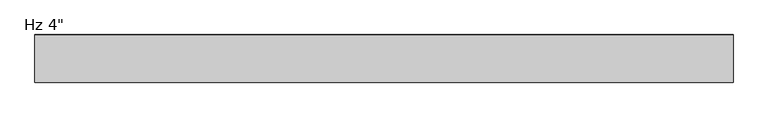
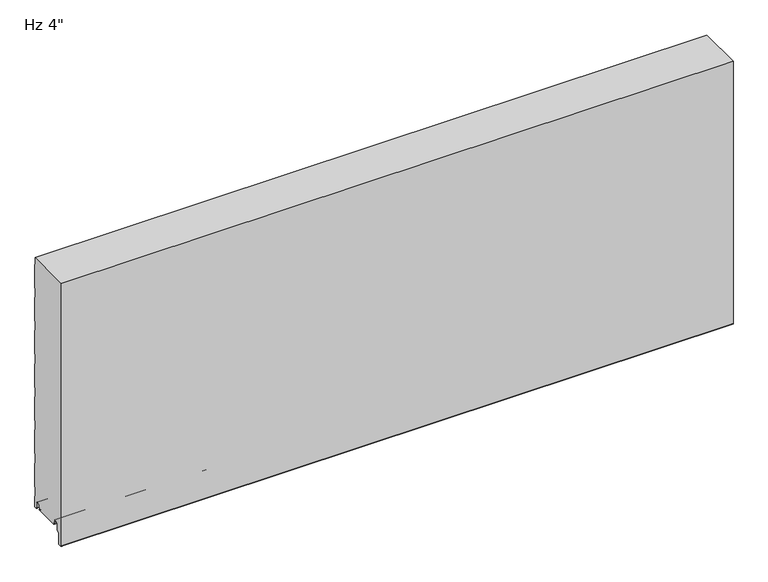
"""IFC4 building model written with IfcOpenShell, lengths in millimetres: plate geometry."""

from ifc_helpers import new_model, si_unit, frame, origin, place, context, project, spatial, polyline, circle_curve, source, transform, mapped, element, save
from ifc_brep_helpers import plane_surface, cylinder_surface, revolved_surface, advanced_brep


def plate_42dbadf1(model_context):
    return source(origin(), model_context, "Body", "AdvancedBrep", [
        advanced_brep(
        [(-730.0, -73.2708959, 1.0316999), (-730.0, -72.1014212, 2.2328239), (-730.0, -72.1014212, 5.9912173), (-730.0, -73.4999001, 5.9912173), (-730.0, -73.4999001, 8.6903283), (-730.0, -76.8498954, 12.0403236), (-730.0, -81.2498866, 12.0403236), (-730.0, -84.5998819, 8.6903283), (-730.0, -84.5998819, -3.1205608), (-730.0, -85.0977988, -4.3226385), (-730.0, -90.5998699, -9.8247096), (-730.0, -90.5998699, -31.9198392), (-730.0, -92.8184719, -34.5765709), (-730.0, -97.8002927, -35.0125699), (-730.0, -100.5946177, -32.4521176), (-730.0, -100.6000209, 571.2), (-730.0, -2.2002516, 571.2), (-730.0, -2.2002516, 555.8186019), (-730.0, -1.0000209, 554.4329689), (-730.0, -1.0000209, 500.3795535), (-730.0, -2.2002516, 498.9939206), (-730.0, -2.2002516, 479.6187543), (-730.0, -1.0000209, 478.2331213), (-730.0, -1.0000209, 424.1797059), (-730.0, -2.2002516, 422.794073), (-730.0, -2.2002516, 403.4189067), (-730.0, -1.0000209, 402.0332737), (-730.0, -1.0000209, 347.9798583), (-730.0, -2.2002516, 346.5942254), (-730.0, -2.2002516, 327.2190591), (-730.0, -1.0000209, 325.8334261), (-730.0, -1.0000209, 271.7800107), (-730.0, -2.2002516, 270.3943778), (-730.0, -2.2002516, 251.0192115), (-730.0, -1.0000209, 249.6335785), (-730.0, -1.0000209, 195.5801631), (-730.0, -2.2002516, 194.1945302), (-730.0, -2.2002516, 174.8193639), (-730.0, -1.0000209, 173.4337309), (-730.0, -1.0000209, 119.3803155), (-730.0, -2.2002516, 117.9946826), (-730.0, -2.2002516, 98.6195163), (-730.0, -1.0000209, 97.2338833), (-730.0, -1.0000209, 43.1804679), (-730.0, -2.2002516, 41.794835), (-730.0, -2.2002516, 22.4196687), (-730.0, -1.0000126, 21.034026), (-730.0, -1.0000126, -3.4662506), (-730.0, -5.2315599, -3.4662506), (-730.0, -7.001554, -1.6962564), (-730.0, -7.001554, 8.7237222), (-730.0, -10.3015499, 12.023718), (-730.0, -14.7015411, 12.023718), (-730.0, -18.0015368, 8.7237223), (-730.0, -18.0015368, 6.0315125), (-730.0, -19.0015314, 6.0315125), (-730.0, -19.0015314, 2.0313089), (-730.0, -18.0015401, 1.0313117), (-730.0, -19.0328517, 0.0), (-730.0, -72.239196, 0.0), (730.0, -73.2708959, 1.0316999), (730.0, -72.239196, 0.0), (730.0, -19.0328517, 0.0), (730.0, -18.0015401, 1.0313117), (730.0, -19.0015314, 2.0313089), (730.0, -19.0015314, 6.0315125), (730.0, -18.0015368, 6.0315125), (730.0, -18.0015368, 8.7237223), (730.0, -14.7015411, 12.023718), (730.0, -10.3015499, 12.023718), (730.0, -7.001554, 8.7237222), (730.0, -7.001554, -1.6962564), (730.0, -5.2315599, -3.4662506), (730.0, -1.0000126, -3.4662506), (730.0, -1.0000126, 21.034026), (730.0, -2.2002516, 22.4196687), (730.0, -2.2002516, 41.794835), (730.0, -1.0000209, 43.1804679), (730.0, -1.0000209, 97.2338833), (730.0, -2.2002516, 98.6195163), (730.0, -2.2002516, 117.9946826), (730.0, -1.0000209, 119.3803155), (730.0, -1.0000209, 173.4337309), (730.0, -2.2002516, 174.8193639), (730.0, -2.2002516, 194.1945302), (730.0, -1.0000209, 195.5801631), (730.0, -1.0000209, 249.6335785), (730.0, -2.2002516, 251.0192115), (730.0, -2.2002516, 270.3943778), (730.0, -1.0000209, 271.7800107), (730.0, -1.0000209, 325.8334261), (730.0, -2.2002516, 327.2190591), (730.0, -2.2002516, 346.5942254), (730.0, -1.0000209, 347.9798583), (730.0, -1.0000209, 402.0332737), (730.0, -2.2002516, 403.4189067), (730.0, -2.2002516, 422.794073), (730.0, -1.0000209, 424.1797059), (730.0, -1.0000209, 478.2331213), (730.0, -2.2002516, 479.6187543), (730.0, -2.2002516, 498.9939206), (730.0, -1.0000209, 500.3795535), (730.0, -1.0000209, 554.4329689), (730.0, -2.2002516, 555.8186019), (730.0, -2.2002516, 571.2), (730.0, -100.6000209, 571.2), (730.0, -100.6000209, -32.4521176), (730.0, -97.8002927, -35.0125699), (730.0, -92.8184719, -34.5765709), (730.0, -90.5998699, -31.9198392), (730.0, -90.5998699, -9.8247096), (730.0, -85.0977988, -4.3226385), (730.0, -84.5998819, -3.1205608), (730.0, -84.5998819, 8.6903283), (730.0, -81.2498866, 12.0403236), (730.0, -76.8498954, 12.0403236), (730.0, -73.4999001, 8.6903283), (730.0, -73.4999001, 5.9912173), (730.0, -72.1014212, 5.9912173), (730.0, -72.1014212, 2.2328239)],
        [
            (0, 1, circle_curve(frame((-730.0, -73.3014178, 2.2313092), z_axis=(1.0, 0.0, 0.0), x_axis=(0.0, 0.0, -1.0)), 1.1999976)),
            (1, 2),
            (2, 3),
            (3, 4),
            (4, 5, circle_curve(frame((-730.0, -76.8498954, 8.6903283), z_axis=(1.0, 0.0, 0.0), x_axis=(0.0, 0.0, -1.0)), 3.3499953)),
            (5, 6),
            (6, 7, circle_curve(frame((-730.0, -81.2498866, 8.6903283), z_axis=(1.0, 0.0, 0.0), x_axis=(0.0, 0.0, -1.0)), 3.3499953)),
            (7, 8),
            (8, 9, circle_curve(frame((-730.0, -86.2998765, -3.1205608), z_axis=(-1.0, 0.0, 0.0), x_axis=(0.0, 0.0, -1.0)), 1.6999946)),
            (9, 10),
            (10, 11),
            (11, 12, circle_curve(frame((-730.0, -93.2998625, -31.9198392), z_axis=(-1.0, 0.0, 0.0), x_axis=(0.0, 0.0, -1.0)), 2.6999926)),
            (12, 13),
            (13, 14, circle_curve(frame((-730.0, -98.0243784, -32.4521176), z_axis=(-1.0, 0.0, 0.0), x_axis=(0.0, 0.0, -1.0)), 2.5702393)),
            (14, 15),
            (15, 16),
            (16, 17),
            (17, 18),
            (18, 19),
            (19, 20),
            (20, 21),
            (21, 22),
            (22, 23),
            (23, 24),
            (24, 25),
            (25, 26),
            (26, 27),
            (27, 28),
            (28, 29),
            (29, 30),
            (30, 31),
            (31, 32),
            (32, 33),
            (33, 34),
            (34, 35),
            (35, 36),
            (36, 37),
            (37, 38),
            (38, 39),
            (39, 40),
            (40, 41),
            (41, 42),
            (42, 43),
            (43, 44),
            (44, 45),
            (45, 46),
            (46, 47),
            (47, 48),
            (48, 49, circle_curve(frame((-730.0, -5.2315599, -1.6962564), z_axis=(-1.0, 0.0, 0.0), x_axis=(0.0, 0.0, 1.0)), 1.7699942)),
            (49, 50),
            (50, 51, circle_curve(frame((-730.0, -10.3015499, 8.7237222), z_axis=(1.0, 0.0, 0.0), x_axis=(0.0, 0.0, 1.0)), 3.2999959)),
            (51, 52),
            (52, 53, circle_curve(frame((-730.0, -14.7015411, 8.7237223), z_axis=(1.0, 0.0, 0.0), x_axis=(0.0, 0.0, 1.0)), 3.2999957)),
            (53, 54),
            (54, 55),
            (55, 56),
            (56, 57, circle_curve(frame((-730.0, -18.0015342, 2.0313089), z_axis=(1.0, 0.0, 0.0), x_axis=(0.0, 0.0, 1.0)), 0.9999972)),
            (57, 58),
            (58, 59),
            (59, 0),
            (60, 61),
            (61, 62),
            (62, 63),
            (63, 64, circle_curve(frame((730.0, -18.0015342, 2.0313089), z_axis=(-1.0, 0.0, 0.0), x_axis=(0.0, 0.0, 1.0)), 0.9999972)),
            (64, 65),
            (65, 66),
            (66, 67),
            (67, 68, circle_curve(frame((730.0, -14.7015411, 8.7237223), z_axis=(-1.0, 0.0, 0.0), x_axis=(0.0, 0.0, 1.0)), 3.2999957)),
            (68, 69),
            (69, 70, circle_curve(frame((730.0, -10.3015499, 8.7237222), z_axis=(-1.0, 0.0, 0.0), x_axis=(0.0, 0.0, 1.0)), 3.2999959)),
            (70, 71),
            (71, 72, circle_curve(frame((730.0, -5.2315599, -1.6962564), z_axis=(1.0, 0.0, 0.0), x_axis=(0.0, 0.0, 1.0)), 1.7699942)),
            (72, 73),
            (73, 74),
            (74, 75),
            (75, 76),
            (76, 77),
            (77, 78),
            (78, 79),
            (79, 80),
            (80, 81),
            (81, 82),
            (82, 83),
            (83, 84),
            (84, 85),
            (85, 86),
            (86, 87),
            (87, 88),
            (88, 89),
            (89, 90),
            (90, 91),
            (91, 92),
            (92, 93),
            (93, 94),
            (94, 95),
            (95, 96),
            (96, 97),
            (97, 98),
            (98, 99),
            (99, 100),
            (100, 101),
            (101, 102),
            (102, 103),
            (103, 104),
            (104, 105),
            (105, 106),
            (106, 107, circle_curve(frame((730.0, -98.0243784, -32.4521176), z_axis=(1.0, 0.0, 0.0), x_axis=(0.0, 0.0, -1.0)), 2.5702393)),
            (107, 108),
            (108, 109, circle_curve(frame((730.0, -93.2998625, -31.9198392), z_axis=(1.0, 0.0, 0.0), x_axis=(0.0, 0.0, -1.0)), 2.6999926)),
            (109, 110),
            (110, 111),
            (111, 112, circle_curve(frame((730.0, -86.2998765, -3.1205608), z_axis=(1.0, 0.0, 0.0), x_axis=(0.0, 0.0, -1.0)), 1.6999946)),
            (112, 113),
            (113, 114, circle_curve(frame((730.0, -81.2498866, 8.6903283), z_axis=(-1.0, 0.0, 0.0), x_axis=(0.0, 0.0, -1.0)), 3.3499953)),
            (114, 115),
            (115, 116, circle_curve(frame((730.0, -76.8498954, 8.6903283), z_axis=(-1.0, 0.0, 0.0), x_axis=(0.0, 0.0, -1.0)), 3.3499953)),
            (116, 117),
            (117, 118),
            (118, 119),
            (119, 60, circle_curve(frame((730.0, -73.3014178, 2.2313092), z_axis=(-1.0, 0.0, 0.0), x_axis=(0.0, 0.0, -1.0)), 1.1999976)),
            (59, 61),
            (60, 0),
            (58, 62),
            (105, 15),
            (14, 106),
            (13, 107),
            (12, 108),
            (11, 109),
            (10, 110),
            (9, 111),
            (8, 112),
            (7, 113),
            (6, 114),
            (5, 115),
            (4, 116),
            (3, 117),
            (2, 118),
            (1, 119),
            (104, 16),
            (57, 63),
            (56, 64),
            (55, 65),
            (54, 66),
            (53, 67),
            (52, 68),
            (51, 69),
            (50, 70),
            (49, 71),
            (48, 72),
            (47, 73),
            (46, 74),
            (45, 75),
            (44, 76),
            (43, 77),
            (42, 78),
            (41, 79),
            (40, 80),
            (39, 81),
            (38, 82),
            (37, 83),
            (36, 84),
            (35, 85),
            (34, 86),
            (33, 87),
            (32, 88),
            (31, 89),
            (30, 90),
            (29, 91),
            (28, 92),
            (27, 93),
            (26, 94),
            (25, 95),
            (24, 96),
            (23, 97),
            (22, 98),
            (21, 99),
            (20, 100),
            (19, 101),
            (18, 102),
            (17, 103),
        ],
        [
            plane_surface(frame((-730.0, -100.6000209, 457.2), z_axis=(-1.0, 0.0, 0.0), x_axis=(0.0, -1.0, 0.0))),
            plane_surface(frame((730.0, -100.6000209, 457.2), z_axis=(1.0, 0.0, 0.0), x_axis=(0.0, -1.0, 0.0))),
            plane_surface(frame((-730.0, -73.2708959, 1.0316999), z_axis=(0.0, -0.7071067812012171, -0.707106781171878), x_axis=(1.0, 0.0, 0.0))),
            plane_surface(frame((-730.0, -72.239196, 0.0), z_axis=(0.0, 0.0, -1.0), x_axis=(1.0, 0.0, 0.0))),
            plane_surface(frame((-730.0, -100.6000209, 865.915622), z_axis=(0.0, -1.0, 0.0), x_axis=(1.0, 0.0, 0.0))),
            cylinder_surface(frame((-730.0, -98.0243784, -32.4521176), z_axis=(-1.0, 0.0, 0.0), x_axis=(0.0, 0.0, -1.0)), 2.5702393),
            plane_surface(frame((-730.0, -97.8002927, -35.0125699), z_axis=(0.0, 0.08718474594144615, -0.9961921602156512), x_axis=(1.0, 0.0, 0.0))),
            cylinder_surface(frame((-730.0, -93.2998625, -31.9198392), z_axis=(-1.0, 0.0, 0.0), x_axis=(0.0, 0.0, -1.0)), 2.6999926),
            plane_surface(frame((-730.0, -90.5998699, -31.9198392), z_axis=(0.0, 1.0, 0.0), x_axis=(1.0, 0.0, 0.0))),
            plane_surface(frame((-730.0, -90.5998699, -9.8247096), z_axis=(0.0, 0.7071067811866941, -0.707106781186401), x_axis=(1.0, 0.0, 0.0))),
            cylinder_surface(frame((-730.0, -86.2998765, -3.1205608), z_axis=(-1.0, 0.0, 0.0), x_axis=(0.0, 0.0, -1.0)), 1.6999946),
            plane_surface(frame((-730.0, -84.5998819, -3.1205608), z_axis=(0.0, 1.0, 0.0), x_axis=(1.0, 0.0, 0.0))),
            revolved_surface(polyline([(730.0, -81.2498866, 5.340332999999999), (-730.0, -81.2498866, 5.340332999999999)]), (-730.0, -81.2498866, 8.6903283), (1.0, 0.0, 0.0)),
            plane_surface(frame((-730.0, -81.2498866, 12.0403236), z_axis=(0.0, 0.0, -1.0), x_axis=(1.0, 0.0, 0.0))),
            revolved_surface(polyline([(730.0, -76.8498954, 5.340332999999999), (-730.0, -76.8498954, 5.340332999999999)]), (-730.0, -76.8498954, 8.6903283), (1.0, 0.0, 0.0)),
            plane_surface(frame((-730.0, -73.4999001, 8.6903283), z_axis=(0.0, -1.0, 0.0), x_axis=(1.0, 0.0, 0.0))),
            plane_surface(frame((-730.0, -73.4999001, 5.9912173), z_axis=(0.0, 0.0, -1.0), x_axis=(1.0, 0.0, 0.0))),
            plane_surface(frame((-730.0, -72.1014212, 5.9912173), z_axis=(0.0, -1.0, 0.0), x_axis=(1.0, 0.0, 0.0))),
            revolved_surface(polyline([(730.0, -73.3014178, 1.0313116), (-730.0, -73.3014178, 1.0313116)]), (-730.0, -73.3014178, 2.2313092), (1.0, 0.0, 0.0)),
            plane_surface(frame((730.0, 9.9999791, 571.2), z_axis=(0.0, 0.0, 1.0), x_axis=(-1.0, 0.0, 0.0))),
            plane_surface(frame((-730.0, -19.0328517, 0.0), z_axis=(0.0, 0.7071067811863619, -0.7071067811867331), x_axis=(1.0, 0.0, 0.0))),
            revolved_surface(polyline([(730.0, -18.0015342, 3.0313061), (-730.0, -18.0015342, 3.0313061)]), (-730.0, -18.0015342, 2.0313089), (1.0, 0.0, 0.0)),
            plane_surface(frame((-730.0, -19.0015314, 2.0313089), z_axis=(0.0, 1.0, 0.0), x_axis=(1.0, 0.0, 0.0))),
            plane_surface(frame((-730.0, -19.0015314, 6.0315125), z_axis=(0.0, 0.0, -1.0), x_axis=(1.0, 0.0, 0.0))),
            plane_surface(frame((-730.0, -18.0015368, 6.0315125), z_axis=(0.0, 1.0, 0.0), x_axis=(1.0, 0.0, 0.0))),
            revolved_surface(polyline([(730.0, -14.7015411, 12.023718), (-730.0, -14.7015411, 12.023718)]), (-730.0, -14.7015411, 8.7237223), (1.0, 0.0, 0.0)),
            plane_surface(frame((-730.0, -14.7015411, 12.023718), z_axis=(0.0, 0.0, -1.0), x_axis=(1.0, 0.0, 0.0))),
            revolved_surface(polyline([(730.0, -10.3015499, 12.0237181), (-730.0, -10.3015499, 12.0237181)]), (-730.0, -10.3015499, 8.7237222), (1.0, 0.0, 0.0)),
            plane_surface(frame((-730.0, -7.001554, 8.7237222), z_axis=(0.0, -1.0, 0.0), x_axis=(1.0, 0.0, 0.0))),
            cylinder_surface(frame((-730.0, -5.2315599, -1.6962564), z_axis=(-1.0, 0.0, 0.0), x_axis=(0.0, 0.0, 1.0)), 1.7699942),
            plane_surface(frame((-730.0, -5.2315599, -3.4662506), z_axis=(0.0, 0.0, -1.0), x_axis=(1.0, 0.0, 0.0))),
            plane_surface(frame((-730.0, -1.0000126, -3.4662506), z_axis=(0.0, 1.0, 0.0), x_axis=(1.0, 0.0, 0.0))),
            plane_surface(frame((-730.0, -1.0000126, 21.034026), z_axis=(0.0, 0.7558648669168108, 0.6547276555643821), x_axis=(1.0, 0.0, 0.0))),
            plane_surface(frame((-730.0, -2.2002516, 22.4196687), z_axis=(0.0, 1.0, 0.0), x_axis=(1.0, 0.0, 0.0))),
            plane_surface(frame((-730.0, -2.2002516, 41.794835), z_axis=(0.0, 0.7558648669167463, -0.6547276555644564), x_axis=(1.0, 0.0, 0.0))),
            plane_surface(frame((-730.0, -1.0000209, 43.1804679), z_axis=(0.0, 1.0, 0.0), x_axis=(1.0, 0.0, 0.0))),
            plane_surface(frame((-730.0, -1.0000209, 97.2338833), z_axis=(0.0, 0.7558648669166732, 0.6547276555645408), x_axis=(1.0, 0.0, 0.0))),
            plane_surface(frame((-730.0, -2.2002516, 98.6195163), z_axis=(0.0, 1.0, 0.0), x_axis=(1.0, 0.0, 0.0))),
            plane_surface(frame((-730.0, -2.2002516, 117.9946826), z_axis=(0.0, 0.7558648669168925, -0.6547276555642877), x_axis=(1.0, 0.0, 0.0))),
            plane_surface(frame((-730.0, -1.0000209, 119.3803155), z_axis=(0.0, 1.0, 0.0), x_axis=(1.0, 0.0, 0.0))),
            plane_surface(frame((-730.0, -1.0000209, 173.4337309), z_axis=(0.0, 0.7558648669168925, 0.6547276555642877), x_axis=(1.0, 0.0, 0.0))),
            plane_surface(frame((-730.0, -2.2002516, 174.8193639), z_axis=(0.0, 1.0, 0.0), x_axis=(1.0, 0.0, 0.0))),
            plane_surface(frame((-730.0, -2.2002516, 194.1945302), z_axis=(0.0, 0.7558648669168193, -0.6547276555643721), x_axis=(1.0, 0.0, 0.0))),
            plane_surface(frame((-730.0, -1.0000209, 195.5801631), z_axis=(0.0, 1.0, 0.0), x_axis=(1.0, 0.0, 0.0))),
            plane_surface(frame((-730.0, -1.0000209, 249.6335785), z_axis=(0.0, 0.7558648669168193, 0.6547276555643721), x_axis=(1.0, 0.0, 0.0))),
            plane_surface(frame((-730.0, -2.2002516, 251.0192115), z_axis=(0.0, 1.0, 0.0), x_axis=(1.0, 0.0, 0.0))),
            plane_surface(frame((-730.0, -2.2002516, 270.3943778), z_axis=(0.0, 0.7558648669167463, -0.6547276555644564), x_axis=(1.0, 0.0, 0.0))),
            plane_surface(frame((-730.0, -1.0000209, 271.7800107), z_axis=(0.0, 1.0, 0.0), x_axis=(1.0, 0.0, 0.0))),
            plane_surface(frame((-730.0, -1.0000209, 325.8334261), z_axis=(0.0, 0.7558648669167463, 0.6547276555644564), x_axis=(1.0, 0.0, 0.0))),
            plane_surface(frame((-730.0, -2.2002516, 327.2190591), z_axis=(0.0, 1.0, 0.0), x_axis=(1.0, 0.0, 0.0))),
            plane_surface(frame((-730.0, -2.2002516, 346.5942254), z_axis=(0.0, 0.7558648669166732, -0.6547276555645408), x_axis=(1.0, 0.0, 0.0))),
            plane_surface(frame((-730.0, -1.0000209, 347.9798583), z_axis=(0.0, 1.0, 0.0), x_axis=(1.0, 0.0, 0.0))),
            plane_surface(frame((-730.0, -1.0000209, 402.0332737), z_axis=(0.0, 0.7558648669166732, 0.6547276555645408), x_axis=(1.0, 0.0, 0.0))),
            plane_surface(frame((-730.0, -2.2002516, 403.4189067), z_axis=(0.0, 1.0, 0.0), x_axis=(1.0, 0.0, 0.0))),
            plane_surface(frame((-730.0, -2.2002516, 422.794073), z_axis=(0.0, 0.755864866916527, -0.6547276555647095), x_axis=(1.0, 0.0, 0.0))),
            plane_surface(frame((-730.0, -1.0000209, 424.1797059), z_axis=(0.0, 1.0, 0.0), x_axis=(1.0, 0.0, 0.0))),
            plane_surface(frame((-730.0, -1.0000209, 478.2331213), z_axis=(0.0, 0.755864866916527, 0.6547276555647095), x_axis=(1.0, 0.0, 0.0))),
            plane_surface(frame((-730.0, -2.2002516, 479.6187543), z_axis=(0.0, 1.0, 0.0), x_axis=(1.0, 0.0, 0.0))),
            plane_surface(frame((-730.0, -2.2002516, 498.9939206), z_axis=(0.0, 0.755864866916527, -0.6547276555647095), x_axis=(1.0, 0.0, 0.0))),
            plane_surface(frame((-730.0, -1.0000209, 500.3795535), z_axis=(0.0, 1.0, 0.0), x_axis=(1.0, 0.0, 0.0))),
            plane_surface(frame((-730.0, -1.0000209, 554.4329689), z_axis=(0.0, 0.755864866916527, 0.6547276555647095), x_axis=(1.0, 0.0, 0.0))),
            plane_surface(frame((-730.0, -2.2002516, 555.8186019), z_axis=(0.0, 1.0, 0.0), x_axis=(1.0, 0.0, 0.0))),
        ],
        [
            (0, [[1, 2, 3, 4, 5, 6, 7, 8, 9, 10, 11, 12, 13, 14, 15, 16, 17, 18, 19, 20, 21, 22, 23, 24, 25, 26, 27, 28, 29, 30, 31, 32, 33, 34, 35, 36, 37, 38, 39, 40, 41, 42, 43, 44, 45, 46, 47, 48, 49, 50, 51, 52, 53, 54, 55, 56, 57, 58, 59, 60]]),
            (1, [[61, 62, 63, 64, 65, 66, 67, 68, 69, 70, 71, 72, 73, 74, 75, 76, 77, 78, 79, 80, 81, 82, 83, 84, 85, 86, 87, 88, 89, 90, 91, 92, 93, 94, 95, 96, 97, 98, 99, 100, 101, 102, 103, 104, 105, 106, 107, 108, 109, 110, 111, 112, 113, 114, 115, 116, 117, 118, 119, 120]]),
            (2, [[121, -61, 122, -60]]),
            (3, [[-59, 123, -62, -121]]),
            (4, [[-106, 124, -15, 125]]),
            (5, [[126, -107, -125, -14]]),
            (6, [[127, -108, -126, -13]]),
            (7, [[128, -109, -127, -12]]),
            (8, [[129, -110, -128, -11]]),
            (9, [[130, -111, -129, -10]]),
            (10, [[131, -112, -130, -9]]),
            (11, [[132, -113, -131, -8]]),
            (12, [[133, -114, -132, -7]]),
            (13, [[134, -115, -133, -6]]),
            (14, [[135, -116, -134, -5]]),
            (15, [[136, -117, -135, -4]]),
            (16, [[137, -118, -136, -3]]),
            (17, [[138, -119, -137, -2]]),
            (18, [[-122, -120, -138, -1]]),
            (19, [[-124, -105, 139, -16]]),
            (20, [[140, -63, -123, -58]]),
            (21, [[141, -64, -140, -57]]),
            (22, [[142, -65, -141, -56]]),
            (23, [[143, -66, -142, -55]]),
            (24, [[144, -67, -143, -54]]),
            (25, [[145, -68, -144, -53]]),
            (26, [[146, -69, -145, -52]]),
            (27, [[147, -70, -146, -51]]),
            (28, [[148, -71, -147, -50]]),
            (29, [[149, -72, -148, -49]]),
            (30, [[150, -73, -149, -48]]),
            (31, [[151, -74, -150, -47]]),
            (32, [[152, -75, -151, -46]]),
            (33, [[153, -76, -152, -45]]),
            (34, [[154, -77, -153, -44]]),
            (35, [[155, -78, -154, -43]]),
            (36, [[156, -79, -155, -42]]),
            (37, [[157, -80, -156, -41]]),
            (38, [[158, -81, -157, -40]]),
            (39, [[159, -82, -158, -39]]),
            (40, [[160, -83, -159, -38]]),
            (41, [[161, -84, -160, -37]]),
            (42, [[162, -85, -161, -36]]),
            (43, [[163, -86, -162, -35]]),
            (44, [[164, -87, -163, -34]]),
            (45, [[165, -88, -164, -33]]),
            (46, [[166, -89, -165, -32]]),
            (47, [[167, -90, -166, -31]]),
            (48, [[168, -91, -167, -30]]),
            (49, [[169, -92, -168, -29]]),
            (50, [[170, -93, -169, -28]]),
            (51, [[171, -94, -170, -27]]),
            (52, [[172, -95, -171, -26]]),
            (53, [[173, -96, -172, -25]]),
            (54, [[174, -97, -173, -24]]),
            (55, [[175, -98, -174, -23]]),
            (56, [[176, -99, -175, -22]]),
            (57, [[177, -100, -176, -21]]),
            (58, [[178, -101, -177, -20]]),
            (59, [[179, -102, -178, -19]]),
            (60, [[180, -103, -179, -18]]),
            (61, [[-17, -139, -104, -180]]),
        ],
    ),
    ])


if __name__ == "__main__":
    model = new_model("IFC4")
    model_context = context("Model", 3, world=origin())
    ifc_project = project(units=[si_unit("LENGTHUNIT", "METRE", prefix="MILLI")], contexts=[model_context])
    site = spatial("IfcSite", under=ifc_project)
    building = spatial("IfcBuilding", under=site)
    placement = place(None, origin())
    plate_shape = plate_42dbadf1(model_context)
    element("IfcPlate", 1, ObjectType="KIP-36-Karrier-KP-R19-CP-Hz-FL3-8in_SL : Hz 4\"", at=placement, inside=building, context=model_context, shape_type="MappedRepresentation", body=[
        mapped(plate_shape, transform((0.0, 0.0, 0.0), x_axis=(1.0, 0.0, 0.0), y_axis=(0.0, 1.0, 0.0), z_axis=(0.0, 0.0, 1.0))),
    ])
    save(model, "model.ifc")
